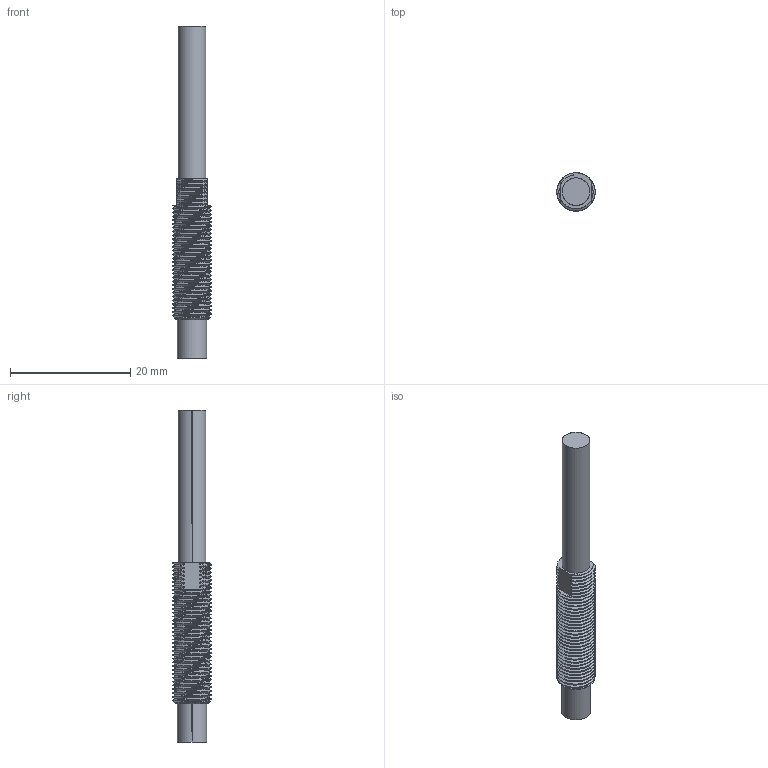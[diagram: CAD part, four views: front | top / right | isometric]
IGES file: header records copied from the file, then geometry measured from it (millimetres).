
Start section: SolidWorks IGES file using analytic representation for surfaces
Global section: file name: C:\Documents and Settings\Administrator\My Documents\EDI\3D\finished sensors\1SU.IGS; native system: SolidWorks 2008; preprocessor: SolidWorks 2008; author: Administrator; date: 100304.192353; units: inch
Bounding box: 6.35 x 6.35 x 55.12 mm (x, y, z)
Surface area: 1204.6 mm2 (no closed solid volume)
Topology: 0 solids, 0 shells, 132 faces, 2475 edges, 2475 vertices
Faces by surface type: revolution 79, bspline 53
